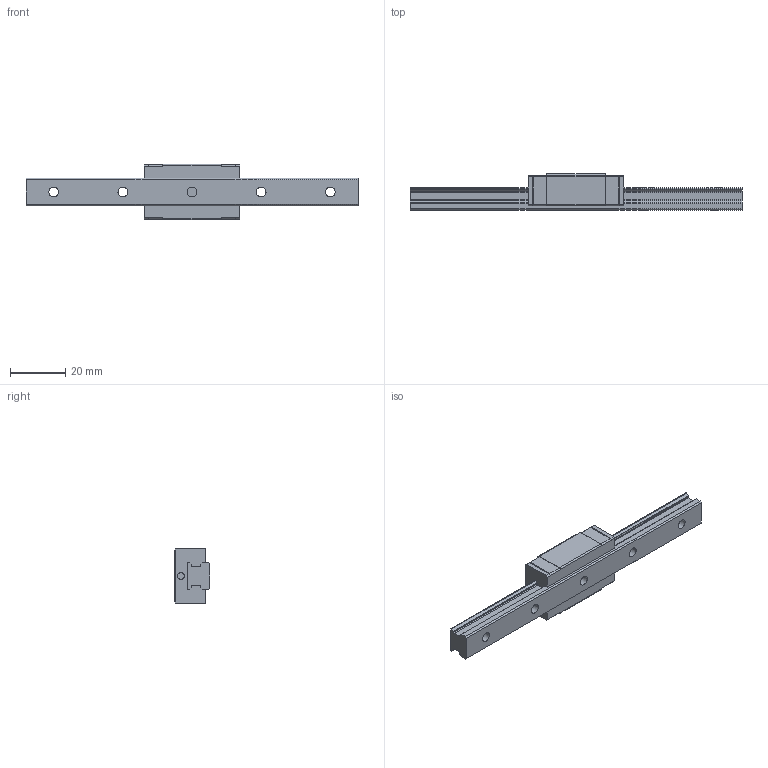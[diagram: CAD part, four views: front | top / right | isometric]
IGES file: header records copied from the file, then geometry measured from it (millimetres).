
Start section: Data from Parasolid IGES Translator 26.0.171, Copyright(c) 2006 Siemens PLM Software. All Rights Reserved.
Global section: file name: HRG10RM1UU-120LHM_G10_0_Without_grease_nipple_42-75_0_0_01.igs; native system: By Siemens PLM Incorporated; preprocessor: XPlus GENERIC/IGES 26.0.171; author: Noname; organization: Noname; date: 20240523.112308; units: millimetre
Bounding box: 120 x 13 x 20 mm (x, y, z)
Surface area: 8353.3 mm2 (no closed solid volume)
Topology: 0 solids, 0 shells, 144 faces, 802 edges, 774 vertices
Faces by surface type: extrusion 86, revolution 58
